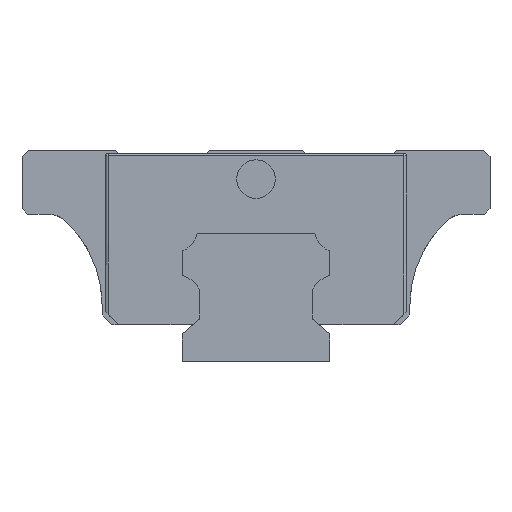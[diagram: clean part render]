
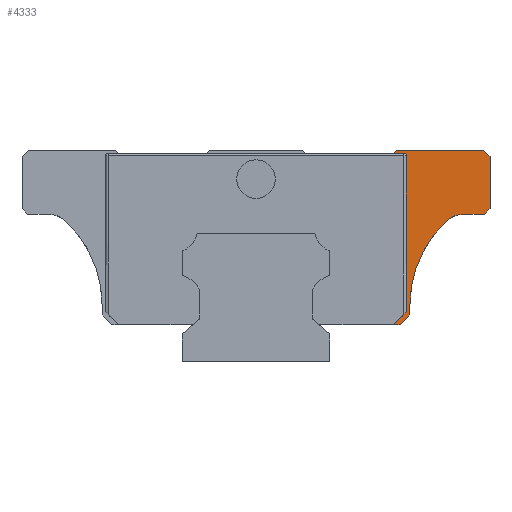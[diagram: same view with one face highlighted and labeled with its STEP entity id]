
A CAD part, left-side view. The second image highlights one B-rep face of the part: STEP entity #4333.
In plain terms, the highlighted planar face has unit normal (-1, 0, 0).
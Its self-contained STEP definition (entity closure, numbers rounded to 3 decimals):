
#57 = LINE ( 'NONE', #7318, #3436 ) ;
#134 = AXIS2_PLACEMENT_3D ( 'NONE', #6793, #649, #4403 ) ;
#168 = LINE ( 'NONE', #760, #2104 ) ;
#206 = EDGE_CURVE ( 'NONE', #3552, #7469, #560, .T. ) ;
#265 = LINE ( 'NONE', #4575, #2605 ) ;
#317 = CARTESIAN_POINT ( 'NONE',  ( -29.5, -36.5, 23. ) ) ;
#328 = DIRECTION ( 'NONE',  ( 1., 0., 0. ) ) ;
#332 = LINE ( 'NONE', #2228, #3214 ) ;
#406 = ORIENTED_EDGE ( 'NONE', *, *, #1558, .T. ) ;
#498 = ORIENTED_EDGE ( 'NONE', *, *, #4867, .T. ) ;
#512 = EDGE_CURVE ( 'NONE', #4939, #2517, #932, .T. ) ;
#560 = LINE ( 'NONE', #7838, #5320 ) ;
#607 = LINE ( 'NONE', #3072, #1635 ) ;
#649 = DIRECTION ( 'NONE',  ( -1., 0., 0. ) ) ;
#760 = CARTESIAN_POINT ( 'NONE',  ( -29.5, -36.5, 33. ) ) ;
#881 = EDGE_CURVE ( 'NONE', #2871, #3552, #5224, .T. ) ;
#932 = CIRCLE ( 'NONE', #4397, 4. ) ;
#944 = LINE ( 'NONE', #6010, #3737 ) ;
#1182 = VERTEX_POINT ( 'NONE', #4358 ) ;
#1196 = VECTOR ( 'NONE', #2982, 1000. ) ;
#1340 = DIRECTION ( 'NONE',  ( 0., 0., 1. ) ) ;
#1420 = VECTOR ( 'NONE', #1340, 1000. ) ;
#1558 = EDGE_CURVE ( 'NONE', #6216, #4939, #6854, .T. ) ;
#1566 = CARTESIAN_POINT ( 'NONE',  ( -29.5, -23.084, 32.135 ) ) ;
#1590 = CARTESIAN_POINT ( 'NONE',  ( -29.5, -21.9, 33. ) ) ;
#1635 = VECTOR ( 'NONE', #2482, 1000. ) ;
#1697 = CIRCLE ( 'NONE', #4269, 0.365 ) ;
#1739 = VERTEX_POINT ( 'NONE', #2662 ) ;
#1770 = ORIENTED_EDGE ( 'NONE', *, *, #512, .T. ) ;
#1826 = CARTESIAN_POINT ( 'NONE',  ( -29.5, -23.449, 7.806 ) ) ;
#1966 = CARTESIAN_POINT ( 'NONE',  ( -29.5, -35.55, 33. ) ) ;
#2063 = CARTESIAN_POINT ( 'NONE',  ( -29.5, -24., 8.8 ) ) ;
#2104 = VECTOR ( 'NONE', #2586, 1000. ) ;
#2204 = CARTESIAN_POINT ( 'NONE',  ( -29.5, -23.449, 32.135 ) ) ;
#2228 = CARTESIAN_POINT ( 'NONE',  ( -29.5, -21.443, 5.8 ) ) ;
#2281 = CARTESIAN_POINT ( 'NONE',  ( -29.5, -42., 8.8 ) ) ;
#2338 = ORIENTED_EDGE ( 'NONE', *, *, #5864, .T. ) ;
#2482 = DIRECTION ( 'NONE',  ( 0., -1., 0. ) ) ;
#2492 = CARTESIAN_POINT ( 'NONE',  ( -29.5, -24., 7.3 ) ) ;
#2517 = VERTEX_POINT ( 'NONE', #7833 ) ;
#2526 = ORIENTED_EDGE ( 'NONE', *, *, #6710, .T. ) ;
#2586 = DIRECTION ( 'NONE',  ( 0., 1., 0. ) ) ;
#2605 = VECTOR ( 'NONE', #2729, 1000. ) ;
#2659 = ORIENTED_EDGE ( 'NONE', *, *, #6480, .F. ) ;
#2662 = CARTESIAN_POINT ( 'NONE',  ( -29.5, -22.5, 5.8 ) ) ;
#2698 = CARTESIAN_POINT ( 'NONE',  ( -29.5, -36.5, 32.05 ) ) ;
#2729 = DIRECTION ( 'NONE',  ( 0., 1., 0. ) ) ;
#2758 = CARTESIAN_POINT ( 'NONE',  ( -29.5, -35.6, 23. ) ) ;
#2781 = DIRECTION ( 'NONE',  ( 0., 0., 1. ) ) ;
#2793 = DIRECTION ( 'NONE',  ( 0., -0.707, 0.707 ) ) ;
#2871 = VERTEX_POINT ( 'NONE', #5066 ) ;
#2899 = DIRECTION ( 'NONE',  ( 0., 0., 1. ) ) ;
#2982 = DIRECTION ( 'NONE',  ( 0., -1., 0. ) ) ;
#3072 = CARTESIAN_POINT ( 'NONE',  ( -29.5, -11.736, 5.8 ) ) ;
#3100 = CARTESIAN_POINT ( 'NONE',  ( -29.5, -21.9, 33. ) ) ;
#3187 = VERTEX_POINT ( 'NONE', #2492 ) ;
#3214 = VECTOR ( 'NONE', #2793, 1000. ) ;
#3296 = DIRECTION ( 'NONE',  ( 0., 0., 1. ) ) ;
#3379 = AXIS2_PLACEMENT_3D ( 'NONE', #2281, #7286, #5926 ) ;
#3436 = VECTOR ( 'NONE', #6703, 1000. ) ;
#3552 = VERTEX_POINT ( 'NONE', #2698 ) ;
#3555 = EDGE_CURVE ( 'NONE', #1182, #7718, #1697, .T. ) ;
#3737 = VECTOR ( 'NONE', #4041, 1000. ) ;
#3794 = LINE ( 'NONE', #3100, #5564 ) ;
#3878 = VECTOR ( 'NONE', #2899, 1000. ) ;
#3972 = CARTESIAN_POINT ( 'NONE',  ( -29.5, -24., 8.8 ) ) ;
#4018 = EDGE_LOOP ( 'NONE', ( #4471, #2338, #4863, #6783, #7687, #2659, #7828, #2526, #5423, #498, #406, #1770, #7895, #4893, #6821 ) ) ;
#4041 = DIRECTION ( 'NONE',  ( 0., -0.707, 0.707 ) ) ;
#4269 = AXIS2_PLACEMENT_3D ( 'NONE', #1566, #5107, #2781 ) ;
#4333 = ADVANCED_FACE ( 'NONE', ( #6180 ), #6713, .T. ) ;
#4358 = CARTESIAN_POINT ( 'NONE',  ( -29.5, -23.084, 32.5 ) ) ;
#4397 = AXIS2_PLACEMENT_3D ( 'NONE', #6531, #328, #4626 ) ;
#4403 = DIRECTION ( 'NONE',  ( 0., 0., 1. ) ) ;
#4471 = ORIENTED_EDGE ( 'NONE', *, *, #206, .T. ) ;
#4575 = CARTESIAN_POINT ( 'NONE',  ( -29.5, -24.589, 32.5 ) ) ;
#4626 = DIRECTION ( 'NONE',  ( 0., 0., 1. ) ) ;
#4684 = EDGE_CURVE ( 'NONE', #5020, #2871, #944, .T. ) ;
#4704 = CARTESIAN_POINT ( 'NONE',  ( -29.5, -23.449, 7.8 ) ) ;
#4742 = VERTEX_POINT ( 'NONE', #7282 ) ;
#4863 = ORIENTED_EDGE ( 'NONE', *, *, #5792, .T. ) ;
#4867 = EDGE_CURVE ( 'NONE', #3187, #6216, #6287, .T. ) ;
#4893 = ORIENTED_EDGE ( 'NONE', *, *, #4684, .T. ) ;
#4939 = VERTEX_POINT ( 'NONE', #6906 ) ;
#5020 = VERTEX_POINT ( 'NONE', #2758 ) ;
#5066 = CARTESIAN_POINT ( 'NONE',  ( -29.5, -36.5, 23.9 ) ) ;
#5101 = EDGE_CURVE ( 'NONE', #4742, #7063, #332, .T. ) ;
#5107 = DIRECTION ( 'NONE',  ( 1., 0., 0. ) ) ;
#5224 = LINE ( 'NONE', #317, #6613 ) ;
#5307 = LINE ( 'NONE', #4704, #3878 ) ;
#5320 = VECTOR ( 'NONE', #6663, 1000. ) ;
#5423 = ORIENTED_EDGE ( 'NONE', *, *, #7118, .T. ) ;
#5480 = LINE ( 'NONE', #5997, #1196 ) ;
#5564 = VECTOR ( 'NONE', #7396, 1000. ) ;
#5792 = EDGE_CURVE ( 'NONE', #6960, #6577, #3794, .T. ) ;
#5864 = EDGE_CURVE ( 'NONE', #7469, #6960, #168, .T. ) ;
#5926 = DIRECTION ( 'NONE',  ( 0., 0., 1. ) ) ;
#5955 = EDGE_CURVE ( 'NONE', #2517, #5020, #5480, .T. ) ;
#5997 = CARTESIAN_POINT ( 'NONE',  ( -29.5, -35.6, 23. ) ) ;
#6010 = CARTESIAN_POINT ( 'NONE',  ( -29.5, -36.5, 23.9 ) ) ;
#6180 = FACE_OUTER_BOUND ( 'NONE', #4018, .T. ) ;
#6216 = VERTEX_POINT ( 'NONE', #3972 ) ;
#6287 = LINE ( 'NONE', #2063, #1420 ) ;
#6480 = EDGE_CURVE ( 'NONE', #7063, #7718, #5307, .T. ) ;
#6531 = CARTESIAN_POINT ( 'NONE',  ( -29.5, -32.41, 19. ) ) ;
#6577 = VERTEX_POINT ( 'NONE', #7970 ) ;
#6613 = VECTOR ( 'NONE', #3296, 1000. ) ;
#6657 = EDGE_CURVE ( 'NONE', #1182, #6577, #265, .T. ) ;
#6663 = DIRECTION ( 'NONE',  ( 0., 0.707, 0.707 ) ) ;
#6703 = DIRECTION ( 'NONE',  ( 0., -0.707, 0.707 ) ) ;
#6710 = EDGE_CURVE ( 'NONE', #4742, #1739, #607, .T. ) ;
#6713 = PLANE ( 'NONE',  #134 ) ;
#6783 = ORIENTED_EDGE ( 'NONE', *, *, #6657, .F. ) ;
#6793 = CARTESIAN_POINT ( 'NONE',  ( -29.5, -10.009, 5.8 ) ) ;
#6821 = ORIENTED_EDGE ( 'NONE', *, *, #881, .T. ) ;
#6854 = CIRCLE ( 'NONE', #3379, 18. ) ;
#6906 = CARTESIAN_POINT ( 'NONE',  ( -29.5, -29.671, 21.914 ) ) ;
#6960 = VERTEX_POINT ( 'NONE', #1590 ) ;
#7063 = VERTEX_POINT ( 'NONE', #1826 ) ;
#7118 = EDGE_CURVE ( 'NONE', #1739, #3187, #57, .T. ) ;
#7282 = CARTESIAN_POINT ( 'NONE',  ( -29.5, -21.443, 5.8 ) ) ;
#7286 = DIRECTION ( 'NONE',  ( 1., 0., 0. ) ) ;
#7318 = CARTESIAN_POINT ( 'NONE',  ( -29.5, -24., 7.3 ) ) ;
#7396 = DIRECTION ( 'NONE',  ( 0., 0.643, -0.766 ) ) ;
#7469 = VERTEX_POINT ( 'NONE', #1966 ) ;
#7687 = ORIENTED_EDGE ( 'NONE', *, *, #3555, .T. ) ;
#7718 = VERTEX_POINT ( 'NONE', #2204 ) ;
#7828 = ORIENTED_EDGE ( 'NONE', *, *, #5101, .F. ) ;
#7833 = CARTESIAN_POINT ( 'NONE',  ( -29.5, -32.41, 23. ) ) ;
#7838 = CARTESIAN_POINT ( 'NONE',  ( -29.5, -35.55, 33. ) ) ;
#7895 = ORIENTED_EDGE ( 'NONE', *, *, #5955, .T. ) ;
#7970 = CARTESIAN_POINT ( 'NONE',  ( -29.5, -21.48, 32.5 ) ) ;
